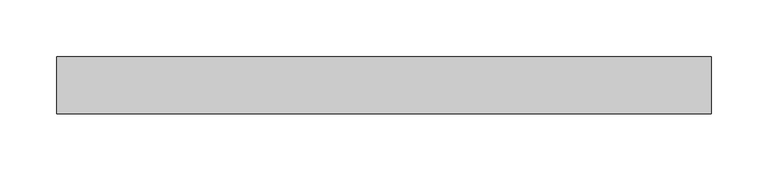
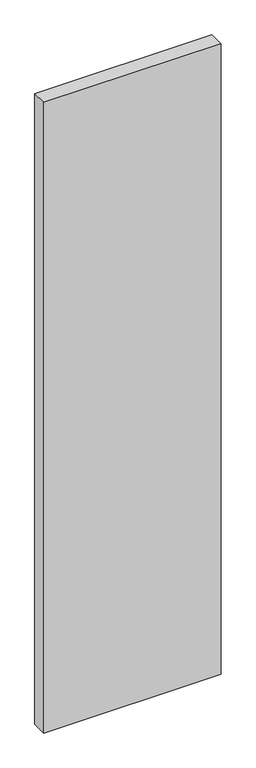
"""IFC4 building model written with IfcOpenShell, lengths in millimetres: plate geometry, Системная панель : Стекло(50мм)."""

import ifcopenshell
import ifcopenshell.guid

model = None  # the IFC model being written
_history = None  # IfcOwnerHistory: only IFC2X3 demands one
_inside = {}  # id of a spatial element -> (the spatial element, [elements in it])
_under = {}  # id of a project, library or spatial element -> (it, [spatial elements below it])
_declared = {}  # id of a project -> (the project, [libraries it declares])
_typed = {}  # id of a type object -> (the type object, [elements of that type])
_made_of = {}  # id of a material, layer set ... -> (it, [elements and type objects made of it])


def new_model(schema):
    """Start an empty IFC model of exactly this schema.

    Asked for "IFC4X3", IfcOpenShell would pick the latest addendum, in which some entities
    have other attributes; the version numbers below select the first issue.
    IFC2X3 requires an IfcOwnerHistory on every rooted entity: one is made here for all.
    """
    global model, _history
    if schema == "IFC4X3":
        model = ifcopenshell.file(schema_version=(4, 3, 0, 0))
    else:
        model = ifcopenshell.file(schema=schema)
    _inside.clear()
    _under.clear()
    _declared.clear()
    _typed.clear()
    _made_of.clear()
    _history = None
    if model.schema == "IFC2X3":
        org = make("IfcOrganization", Name="unknown")
        user = make(
            "IfcPersonAndOrganization",
            ThePerson=make("IfcPerson", FamilyName="unknown"),
            TheOrganization=org,
        )
        app = make(
            "IfcApplication",
            ApplicationDeveloper=org,
            Version="unknown",
            ApplicationFullName="unknown",
            ApplicationIdentifier="unknown",
        )
        _history = make(
            "IfcOwnerHistory",
            OwningUser=user,
            OwningApplication=app,
            ChangeAction="ADDED",
            CreationDate=0,
        )
    return model


def make(cls, **values):
    """One entity of the class cls with the attributes given. An attribute that is None is left unset."""
    return model.create_entity(
        cls, **{name: value for name, value in values.items() if value is not None}
    )


def rooted(cls, **values):
    """An entity with a GlobalId (a new one), such as an element, a storey or a relation."""
    return make(cls, GlobalId=ifcopenshell.guid.new(), OwnerHistory=_history, **values)


def si_unit(unit_type, name, prefix=None):
    """IfcSIUnit, for example si_unit("LENGTHUNIT", "METRE", prefix="MILLI")."""
    return make("IfcSIUnit", UnitType=unit_type, Prefix=prefix, Name=name)


def assignment(units):
    """IfcUnitAssignment: the units of a project."""
    return None if units is None else make("IfcUnitAssignment", Units=units)


def point(xyz):
    """IfcCartesianPoint."""
    return None if xyz is None else make("IfcCartesianPoint", Coordinates=xyz)


def direction(xyz):
    """IfcDirection."""
    return None if xyz is None else make("IfcDirection", DirectionRatios=xyz)


def frame(location, z_axis=None, x_axis=None):
    """IfcAxis2Placement3D, a coordinate frame: its origin and axes. An axis left out is left unset."""
    return make(
        "IfcAxis2Placement3D",
        Location=point(location),
        Axis=direction(z_axis),
        RefDirection=direction(x_axis),
    )


def origin():
    """The frame at (0, 0, 0) with its axes left unset."""
    return frame((0.0, 0.0, 0.0))


def origin_with_axes():
    """The frame at (0, 0, 0) with the z axis (0, 0, 1) and the x axis (1, 0, 0) written out."""
    return frame((0.0, 0.0, 0.0), z_axis=(0.0, 0.0, 1.0), x_axis=(1.0, 0.0, 0.0))


def place(relative_to, where):
    """IfcLocalPlacement: puts the frame where relative to a parent placement (None: the world)."""
    return make(
        "IfcLocalPlacement", PlacementRelTo=relative_to, RelativePlacement=where
    )


def context(
    kind, dimensions, precision=None, world=None, true_north=None, identifier=None
):
    """IfcGeometricRepresentationContext, for example the 3D "Model" context."""
    return make(
        "IfcGeometricRepresentationContext",
        ContextIdentifier=identifier,
        ContextType=kind,
        CoordinateSpaceDimension=dimensions,
        Precision=precision,
        WorldCoordinateSystem=world,
        TrueNorth=true_north,
    )


def project(units=None, contexts=None):
    """IfcProject with its units and contexts."""
    return rooted(
        "IfcProject",
        Name="project",
        RepresentationContexts=contexts,
        UnitsInContext=assignment(units),
    )


def spatial(cls, under=None, at=None, **own):
    """A site, building, storey or space (cls), placed at a placement, below another one or the project."""
    s = rooted(cls, ObjectPlacement=at, **own)
    if under is not None:
        _under.setdefault(under.id(), (under, []))[1].append(s)
    return s


def polyline(points):
    """IfcPolyline through the points."""
    return make("IfcPolyline", Points=[point(p) for p in points])


def outline(outer, holes=None, kind="AREA"):
    """IfcArbitraryClosedProfileDef: a profile drawn as a closed curve; with holes, ...WithVoids."""
    if holes is None:
        return make("IfcArbitraryClosedProfileDef", ProfileType=kind, OuterCurve=outer)
    return make(
        "IfcArbitraryProfileDefWithVoids",
        ProfileType=kind,
        OuterCurve=outer,
        InnerCurves=holes,
    )


def extrude(swept, where, along, depth):
    """IfcExtrudedAreaSolid: the profile swept, set in the frame where, extruded along a direction by depth."""
    return make(
        "IfcExtrudedAreaSolid",
        SweptArea=swept,
        Position=where,
        ExtrudedDirection=direction(along),
        Depth=depth,
    )


def shape(context_of_items, identifier, shape_type, items):
    """IfcShapeRepresentation: the items that make up one representation, for example the "Body"."""
    return make(
        "IfcShapeRepresentation",
        ContextOfItems=context_of_items,
        RepresentationIdentifier=identifier,
        RepresentationType=shape_type,
        Items=items,
    )


def source(mapping_origin, context_of_items, identifier, shape_type, items):
    """IfcRepresentationMap: a shape defined once, which mapped items show again and again."""
    return make(
        "IfcRepresentationMap",
        MappingOrigin=mapping_origin,
        MappedRepresentation=shape(context_of_items, identifier, shape_type, items),
    )


def transform(
    local_origin,
    x_axis=None,
    y_axis=None,
    z_axis=None,
    scale=None,
    scale2=None,
    scale3=None,
    uniform=True,
):
    """IfcCartesianTransformationOperator3D, or its non-uniform kind. x_axis, y_axis, z_axis: its Axis1, 2, 3."""
    if uniform:
        return make(
            "IfcCartesianTransformationOperator3D",
            Axis1=direction(x_axis),
            Axis2=direction(y_axis),
            LocalOrigin=point(local_origin),
            Scale=scale,
            Axis3=direction(z_axis),
        )
    return make(
        "IfcCartesianTransformationOperator3DnonUniform",
        Axis1=direction(x_axis),
        Axis2=direction(y_axis),
        LocalOrigin=point(local_origin),
        Scale=scale,
        Axis3=direction(z_axis),
        Scale2=scale2,
        Scale3=scale3,
    )


def mapped(mapping_source, mapping_target):
    """IfcMappedItem: shows the shape of a source again, moved by a transform."""
    return make(
        "IfcMappedItem", MappingSource=mapping_source, MappingTarget=mapping_target
    )


def made_of(thing, what):
    """Note that an element or type object is made of a material, layer set ...; save() writes the relation."""
    if what is not None:
        _made_of.setdefault(what.id(), (what, []))[1].append(thing)
    return thing


def element(
    cls,
    number,
    at=None,
    inside=None,
    cuts=None,
    type_object=None,
    material=None,
    context=None,
    identifier="Body",
    shape_type=None,
    held_by="IfcProductDefinitionShape",
    body=None,
    shapes=None,
    **own,
):
    """One element of the class cls, such as IfcWall. Its Tag is "e" and its number.

    at: its placement. inside: the storey or other place that contains it. cuts: it is an
    opening in that element (IfcRelVoidsElement). A single representation is given by context,
    identifier, shape_type and body (its items); several are given by shapes. held_by: the class
    of the entity that holds the representations. save() writes the other relations.
    """
    e = rooted(cls, Tag="e%d" % number, ObjectPlacement=at, **own)
    if body is not None:
        shapes = [shape(context, identifier, shape_type, body)]
    if shapes is not None:
        e.Representation = make(held_by, Representations=shapes)
    if inside is not None:
        _inside.setdefault(inside.id(), (inside, []))[1].append(e)
    if cuts is not None:
        rooted(
            "IfcRelVoidsElement", RelatingBuildingElement=cuts, RelatedOpeningElement=e
        )
    if type_object is not None:
        _typed.setdefault(type_object.id(), (type_object, []))[1].append(e)
    return made_of(e, material)


def aggregate(whole, parts):
    """IfcRelAggregates: a whole, such as a stair, and the parts it consists of."""
    return rooted("IfcRelAggregates", RelatingObject=whole, RelatedObjects=parts)


def save(model, path):
    """Write the relations noted so far, then the file.

    IfcRelAggregates (storeys below a building ...), IfcRelContainedInSpatialStructure (elements
    in a storey), IfcRelDefinesByType, IfcRelAssociatesMaterial and IfcRelDeclares: one each for
    every whole, place, type object, material and project.
    """
    for whole, parts in _under.values():
        aggregate(whole, parts)
    for where, things in _inside.values():
        rooted(
            "IfcRelContainedInSpatialStructure",
            RelatedElements=things,
            RelatingStructure=where,
        )
    for kind, things in _typed.values():
        rooted("IfcRelDefinesByType", RelatedObjects=things, RelatingType=kind)
    for what, things in _made_of.values():
        rooted("IfcRelAssociatesMaterial", RelatedObjects=things, RelatingMaterial=what)
    for by, libraries in _declared.values():
        rooted("IfcRelDeclares", RelatingContext=by, RelatedDefinitions=libraries)
    model.write(path)


def plate_8906afd4(model_context):
    return source(origin(), model_context, "Body", "SweptSolid", [
        extrude(outline(polyline([(288.0, -25.0), (-288.0, -25.0), (-288.0, 25.0), (288.0, 25.0), (288.0, -25.0)])), origin_with_axes(), (0.0, 0.0, 1.0), 2165.0),
    ])


if __name__ == "__main__":
    model = new_model("IFC4")
    model_context = context("Model", 3, world=origin())
    ifc_project = project(units=[si_unit("LENGTHUNIT", "METRE", prefix="MILLI")], contexts=[model_context])
    site = spatial("IfcSite", under=ifc_project)
    building = spatial("IfcBuilding", under=site)
    placement = place(None, origin())
    plate_shape = plate_8906afd4(model_context)
    element("IfcPlate", 1, ObjectType="Системная панель : Стекло(50мм)", at=placement, inside=building, context=model_context, shape_type="MappedRepresentation", body=[
        mapped(plate_shape, transform((0.0, 0.0, 0.0), x_axis=(1.0, 0.0, 0.0), y_axis=(0.0, 1.0, 0.0), z_axis=(0.0, 0.0, 1.0))),
    ])
    save(model, "model.ifc")
